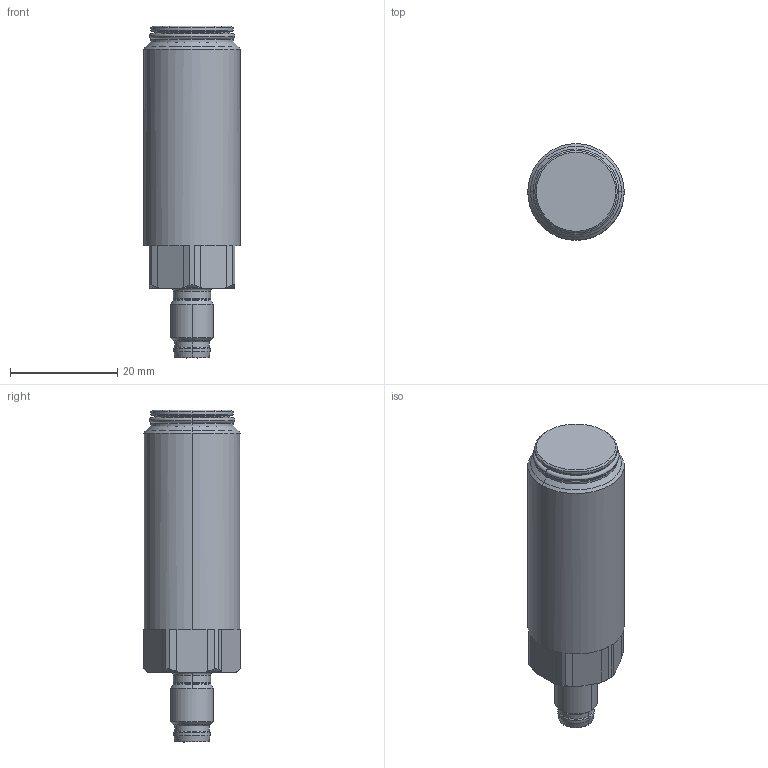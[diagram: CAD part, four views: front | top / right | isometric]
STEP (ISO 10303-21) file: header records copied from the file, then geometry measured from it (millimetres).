
FILE_DESCRIPTION((''),'2;1');
FILE_NAME('Z2607098-A_ASM','2011-06-21T',('11000065'),(''),'PRO/ENGINEER BY PARAMETRIC TECHNOLOGY CORPORATION, 2010480','PRO/ENGINEER BY PARAMETRIC TECHNOLOGY CORPORATION, 2010480','');
FILE_SCHEMA(('AUTOMOTIVE_DESIGN { 1 0 10303 214 1 1 1 1 }'));
Length unit declared in the file: millimetre
Products named in the file (5): 0483492-01; O-RING_15X1; Z0483471-01; 0323362; Z2607098-A_ASM
Assembly tree (4 placements, depth 2):
  Z2607098-A_ASM
    0483492-01
    O-RING_15X1
    Z0483471-01
    0323362
Bounding box: 18 x 18 x 62 mm (x, y, z)
Volume: 12165.2 mm3; surface area: 6774.9 mm2
Topology: 4 solids, 6 shells, 116 faces, 302 edges, 202 vertices
Faces by surface type: cylinder 40, plane 28, cone 24, torus 16, bspline 8
Entity records: 5462 total; most frequent: CARTESIAN_POINT 860, DIRECTION 716, ORIENTED_EDGE 570, PRESENTATION_STYLE_ASSIGNMENT 323, AXIS2_PLACEMENT_3D 307, STYLED_ITEM 303, EDGE_CURVE 302, CURVE_STYLE 294
